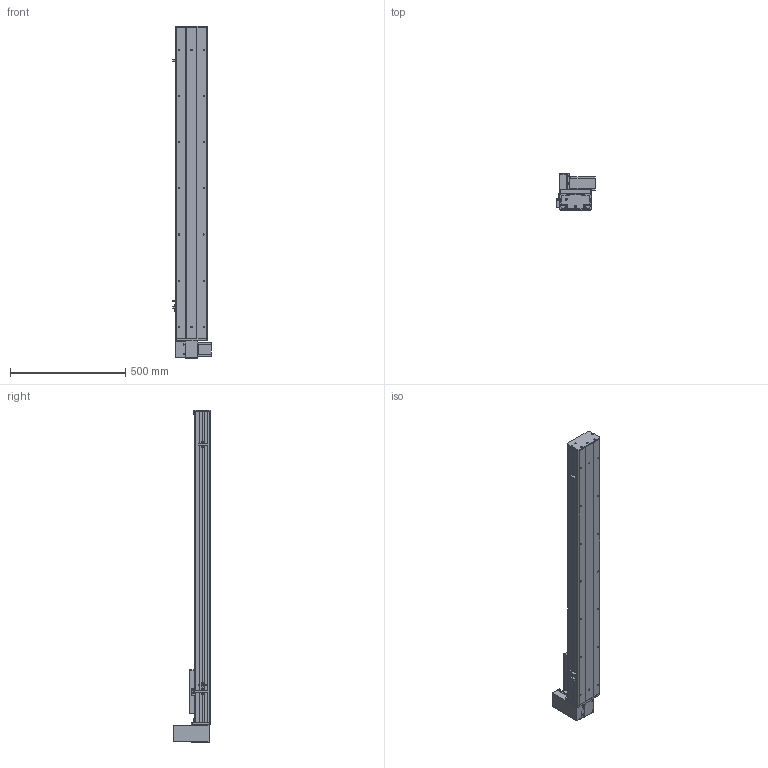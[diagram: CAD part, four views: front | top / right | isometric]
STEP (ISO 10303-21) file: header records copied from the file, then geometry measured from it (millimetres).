
FILE_DESCRIPTION (( 'STEP AP203' ), '1' );
FILE_NAME ('Y135CB-D90-S1050-UR-P400W.STEP', '2020-02-18T04:05:40', ( '微软用户' ), ( '微软中国' ), 'SwSTEP 2.0', 'SolidWorks 2017', '' );
FILE_SCHEMA (( 'CONFIG_CONTROL_DESIGN' ));
Length unit declared in the file: millimetre
Products named in the file (18): Y135CB-耜裔; Y135CB-D90-S1050-UR-P400W; 135CB--詩湍-CE; 135CB---遴掛极.-; Y100-135俋离換覜ん--; 35CB---喘謫眊楊擘啣; Y135C-陔俋离換覜結え-; 0B-埴倛裔啣; 5C--俋欶; 0B-源倛裔啣; C-雄赽釱--; 0B-萇儂楊擘啣; Y10B--々湍喘謫眊--666; san松下电机400不带刹车----; Y10B-耜蚾蟀諉啣----; 5CB --掛极耜裔啣-; 00B-俋欶BM--; C-詩湍揤踡え-陔
Assembly tree (21 placements, depth 2):
  Y135CB-D90-S1050-UR-P400W
    Y135CB-耜裔
    135CB---遴掛极.-
    35CB---喘謫眊楊擘啣
    0B-埴倛裔啣
    0B-源倛裔啣
    0B-萇儂楊擘啣
    san松下电机400不带刹车----
    5CB --掛极耜裔啣-  x2
    C-詩湍揤踡え-陔  x2
    135CB--詩湍-CE
    Y100-135俋离換覜ん--  x3
    Y135C-陔俋离換覜結え-
    5C--俋欶
    C-雄赽釱--
    Y10B--々湍喘謫眊--666
    Y10B-耜蚾蟀諉啣----
    00B-俋欶BM--
Bounding box: 167.5 x 158.7 x 1438 mm (x, y, z)
Volume: 4516355.2 mm3; surface area: 1768320.2 mm2
Topology: 21 solids, 21 shells, 945 faces, 2527 edges, 1674 vertices
Faces by surface type: cylinder 473, plane 456, cone 16
Entity records: 29349 total; most frequent: DIRECTION 4875, CARTESIAN_POINT 4812, ORIENTED_EDGE 4530, EDGE_CURVE 2265, AXIS2_PLACEMENT_3D 1777, VERTEX_POINT 1502, VECTOR 1321, LINE 1321
